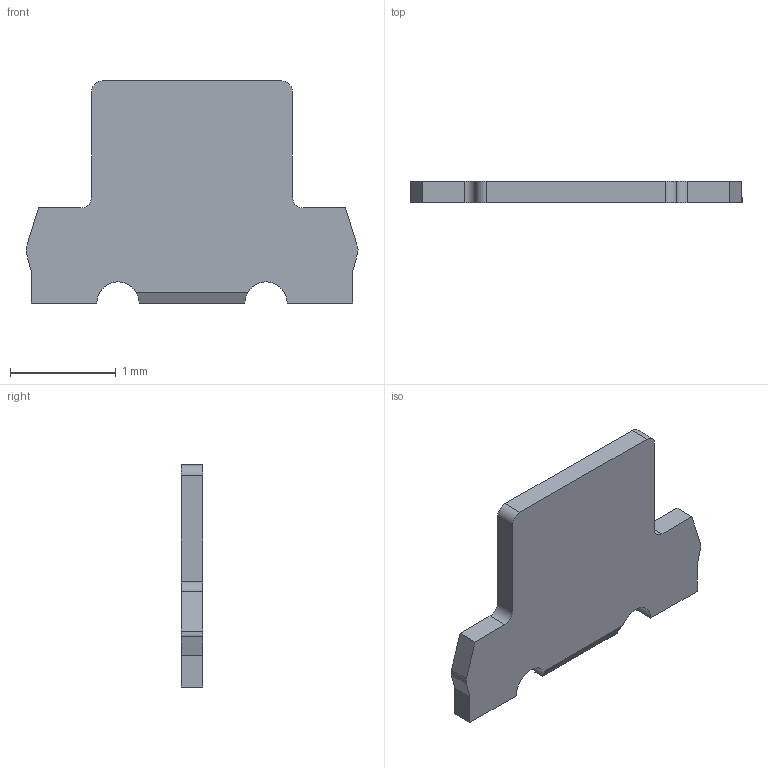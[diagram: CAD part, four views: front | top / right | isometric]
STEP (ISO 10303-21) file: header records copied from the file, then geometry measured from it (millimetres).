
FILE_DESCRIPTION((''),'2;1');
FILE_NAME('T-DSC20-900X00_1_PRT','2008-06-30T',('GRA'),(''),'PRO/ENGINEER BY PARAMETRIC TECHNOLOGY CORPORATION, 2006170','PRO/ENGINEER BY PARAMETRIC TECHNOLOGY CORPORATION, 2006170','');
FILE_SCHEMA(('CONFIG_CONTROL_DESIGN'));
Length unit declared in the file: millimetre
Products named in the file (1): T-DSC20-900X00_1_PRT
Bounding box: 3.14 x 0.2 x 2.1 mm (x, y, z)
Volume: 1 mm3; surface area: 11.8 mm2
Topology: 1 solids, 1 shells, 26 faces, 72 edges, 48 vertices
Faces by surface type: plane 18, cylinder 8
Entity records: 871 total; most frequent: CARTESIAN_POINT 155, ORIENTED_EDGE 144, DIRECTION 136, EDGE_CURVE 72, VECTOR 52, LINE 52, VERTEX_POINT 48, AXIS2_PLACEMENT_3D 42
